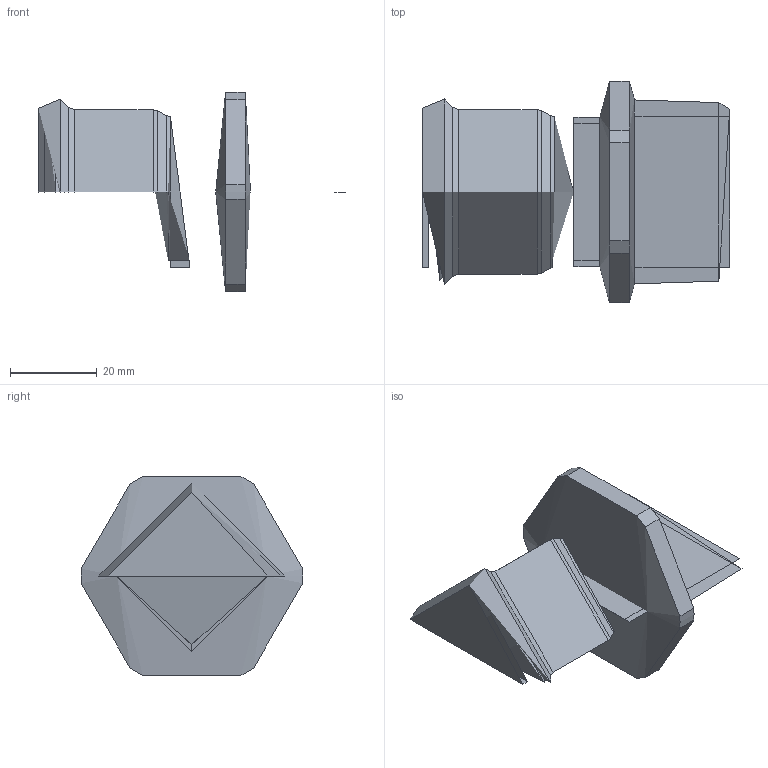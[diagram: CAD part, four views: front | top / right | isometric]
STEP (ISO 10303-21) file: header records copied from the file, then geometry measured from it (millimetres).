
FILE_DESCRIPTION(('FreeCAD Model'),'2;1');
FILE_NAME('Open CASCADE Shape Model','2025-10-20T15:01:31',('Author'),( ''),'Open CASCADE STEP processor 7.8','FreeCAD','Unknown');
FILE_SCHEMA(('AUTOMOTIVE_DESIGN { 1 0 10303 214 1 1 1 1 }'));
Length unit declared in the file: millimetre
Products named in the file (7): Unnamed166; COMPOUND; COMPOUND001; X-Achse; XY-Ebene; COMPOUND002; COMPOUND003
Assembly tree (18 placements, depth 3):
  Unnamed166
    COMPOUND
    COMPOUND001
      COMPOUND
    X-Achse  x6
    XY-Ebene  x6
    COMPOUND002
    COMPOUND003
      COMPOUND002
Bounding box: 71 x 51.22 x 46 mm (x, y, z)
Volume: 45794.2 mm3; surface area: 38799.1 mm2
Topology: 4 solids, 4 shells, 80 faces, 252 edges, 176 vertices
Faces by surface type: bspline 80
Entity records: 1986 total; most frequent: CARTESIAN_POINT 1128, ORIENTED_EDGE 246, EDGE_CURVE 123, VERTEX_POINT 88, FACE_BOUND 45, EDGE_LOOP 45, ADVANCED_FACE 40, DIRECTION 39
